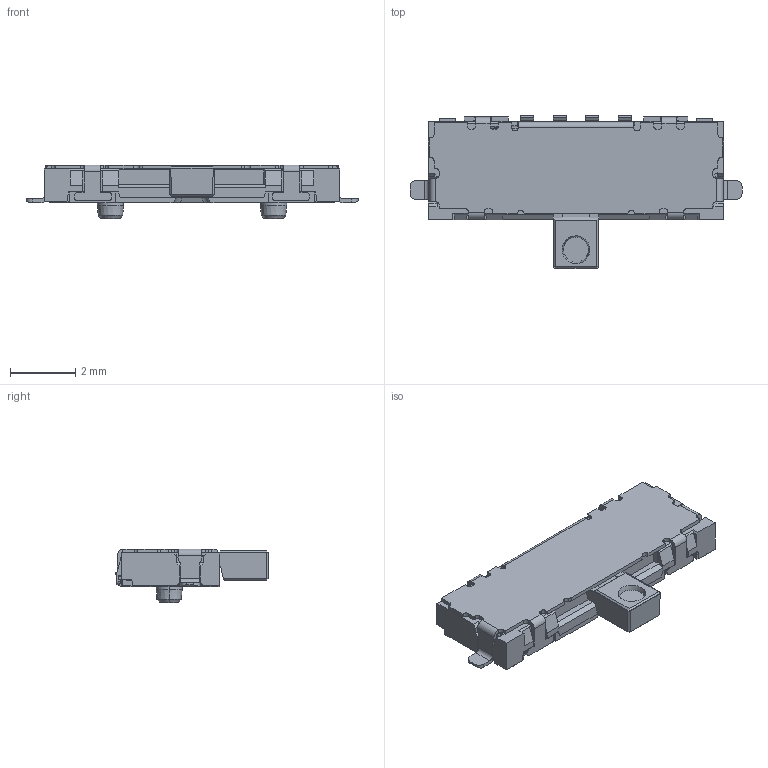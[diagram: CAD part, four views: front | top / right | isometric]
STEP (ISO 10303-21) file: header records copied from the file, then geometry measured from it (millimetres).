
FILE_DESCRIPTION (( 'STEP AP214' ), '1' );
FILE_NAME ('SSAG230300.STEP', '2012-08-06T23:35:22', ( '' ), ( '' ), 'SwSTEP 2.0', 'SolidWorks 2010', '' );
FILE_SCHEMA (( 'AUTOMOTIVE_DESIGN' ));
Length unit declared in the file: millimetre
Products named in the file (1): SSAG230300
Bounding box: 10.17 x 4.7 x 1.65 mm (x, y, z)
Volume: 31 mm3; surface area: 124.3 mm2
Topology: 1 solids, 1 shells, 706 faces, 1991 edges, 1296 vertices
Faces by surface type: plane 522, cylinder 158, cone 24, bspline 2
Entity records: 30868 total; most frequent: CARTESIAN_POINT 5478, ORIENTED_EDGE 3982, DIRECTION 3183, EDGE_CURVE 1991, VECTOR 1469, LINE 1469, VERTEX_POINT 1296, AXIS2_PLACEMENT_3D 857
